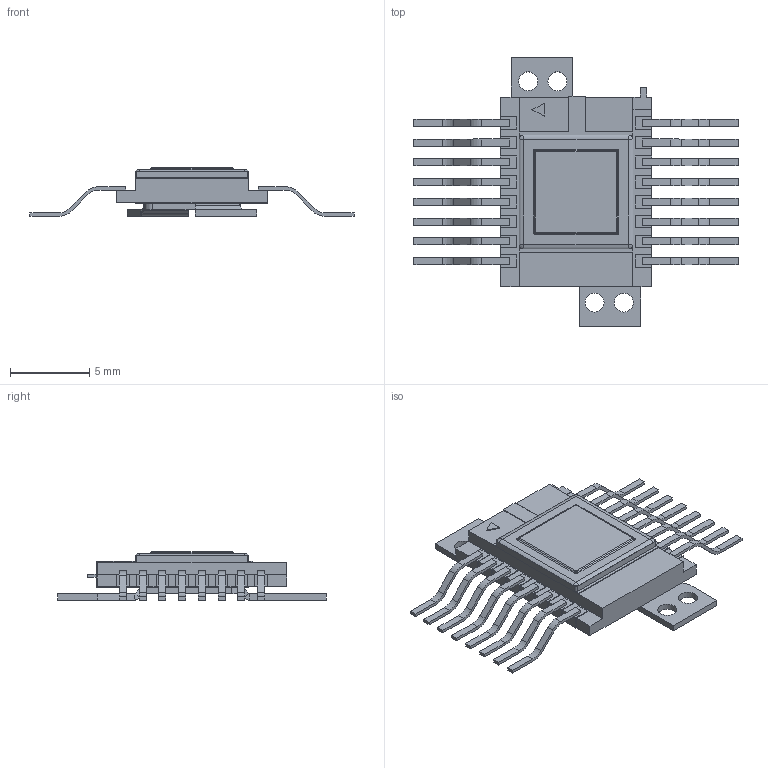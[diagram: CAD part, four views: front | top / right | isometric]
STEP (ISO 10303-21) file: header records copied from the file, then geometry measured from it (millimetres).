
FILE_DESCRIPTION(/* description */ ('STEP AP242'),/* implementation_level */ '2;1');
FILE_NAME(/* name */ '4112.16-15.01.step',/* time_stamp */ '2025-11-05T16:37:20+03:00',/* author */ (''),/* organization */ (''),/* preprocessor_version */ 'ST-DEVELOPER v20.1',/* originating_system */ 'Autodesk Translation Framework v14.17.0.0',/* authorisation */ '');
FILE_SCHEMA (('AUTOMOTIVE_DESIGN { 1 0 10303 214 3 1 1 }'));
Length unit declared in the file: millimetre
Products named in the file (5): ÊÔÖÑ.431433.003ÑÁ; Äåòàëü (3); Äåòàëü; Äåòàëü (2); Äåòàëü (1)
Assembly tree (4 placements, depth 2):
  ÊÔÖÑ.431433.003ÑÁ
    Äåòàëü (3)
    Äåòàëü
    Äåòàëü (2)
    Äåòàëü (1)
Bounding box: 20.5 x 17 x 3.05 mm (x, y, z)
Volume: 185.3 mm3; surface area: 787.5 mm2
Topology: 20 solids, 20 shells, 783 faces, 2075 edges, 1357 vertices
Faces by surface type: plane 635, cylinder 114, bspline 30, sphere 4
Full cylindrical faces by diameter (mm): 1.2 x4
Entity records: 27150 total; most frequent: CARTESIAN_POINT 7234, ORIENTED_EDGE 4134, DIRECTION 3799, EDGE_CURVE 2067, LINE 1791, VECTOR 1791, VERTEX_POINT 1357, AXIS2_PLACEMENT_3D 1004
